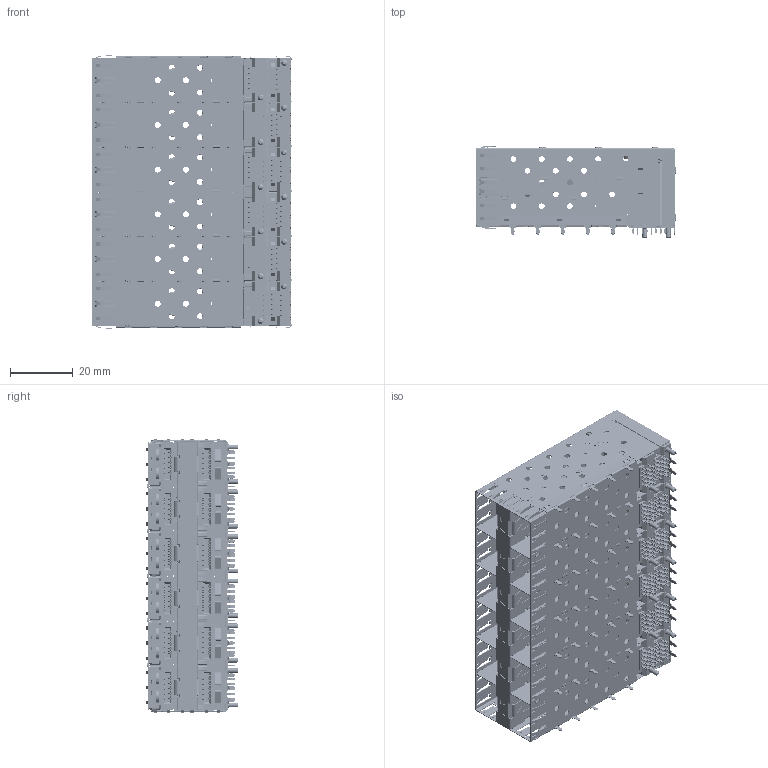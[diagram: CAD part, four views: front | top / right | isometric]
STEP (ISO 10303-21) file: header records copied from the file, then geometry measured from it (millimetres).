
FILE_DESCRIPTION (( 'STEP AP214' ), '1' );
FILE_NAME ('SAG0-0000210200-0000-X.STEP', '2021-06-15T06:30:03', ( '' ), ( '' ), 'SwSTEP 2.0', 'SolidWorks 2012', '' );
FILE_SCHEMA (( 'AUTOMOTIVE_DESIGN' ));
Length unit declared in the file: millimetre
Products named in the file (43): SSA0-M210_SSA0-M21001XX 客戶3D-Type B-XIN; SSA0-M210_SSA0-M21000XX 客戶3D-Type A-XIN; SSA0-M220-P_D TYPE; SBA0-S130_組裝; SSA0-C110_SSA0-C11000XX 客戶3D-Type A-GND; SSA0-M220-P; SSA0-C110_SSA0-C11003XX 客戶3D-Type D-XIN; SSA0-C110_SSA0-C11002XX 客戶3D-Type C-XIN; SSA0-M220_SSA0-M22001XX 客戶3D-Type B-GND; SSA0-M210-P_C TYPE; SSA0-M220_SSA0-M22000XX 客戶3D-Type A-GND; SBG0-S120_SFP; SAG0-0000210200-0000-X; SSA0-C110_SSA0-C11001XX 客戶3D-Type B-GND; SBD0-S140_w\UD Innerlightpipe-right ass''y; SSD0-P150; SSA0-M210-P; SBD0-S140_w\UD Innerlightpipe-stamp; SBG0-S110-1_2.25-Legs22-SFP hole+panel spring ass''y; SBD0-S130-1_pressfit 1.05-2.25-Legs5-ass''y; SSD0-P140_for 4Lightpipe-LED高度0.6 max(亮面+套筒); SBG0-M110-1_pressfit 1.05-2.25-legs5-UD Inner  lightpipe; SBD0-S140_w\UD Innerlightpipe-left ass''y; SSA0-P110; SSA0-M130 Conn+Lightpipe Ass''y-1_«È¤á3D DU Inner Lightpipe
Assembly tree (54 placements, depth 4):
  SAG0-0000210200-0000-X
    SBG0-S110-1_2.25-Legs22-SFP hole+panel spring ass''y
    SBG0-M110-1_pressfit 1.05-2.25-legs5-UD Inner  lightpipe
      SBD0-S130-1_pressfit 1.05-2.25-Legs5-ass''y  x5
      SBD0-S140_w\UD Innerlightpipe-left ass''y
      SBD0-S140_w\UD Innerlightpipe-stamp  x4
      SBD0-S140_w\UD Innerlightpipe-right ass''y
    SBG0-S120_SFP
    SSA0-M130 Conn+Lightpipe Ass''y-1_«È¤á3D DU Inner Lightpipe  x6
      SSA0-P110
      SBA0-S130_組裝
      SSA0-M220_SSA0-M22000XX 客戶3D-Type A-GND
        SSA0-M220-P
        SSA0-C110_SSA0-C11000XX 客戶3D-Type A-GND
      SSA0-M210_SSA0-M21001XX 客戶3D-Type B-XIN
        SSA0-M210-P
        SSA0-C110_SSA0-C11003XX 客戶3D-Type D-XIN
      SSA0-M210_SSA0-M21000XX 客戶3D-Type A-XIN
        SSA0-M210-P_C TYPE
        SSA0-C110_SSA0-C11002XX 客戶3D-Type C-XIN
      SSA0-M220_SSA0-M22001XX 客戶3D-Type B-GND
        SSA0-M220-P_D TYPE
        SSA0-C110_SSA0-C11001XX 客戶3D-Type B-GND
      SSA0-M210_SSA0-M21000XX 客戶3D-Type A-XIN
        SSA0-M210-P_C TYPE
        SSA0-C110_SSA0-C11002XX 客戶3D-Type C-XIN
      SSA0-M210_SSA0-M21001XX 客戶3D-Type B-XIN
        SSA0-M210-P
        SSA0-C110_SSA0-C11003XX 客戶3D-Type D-XIN
      SSA0-M220_SSA0-M22000XX 客戶3D-Type A-GND
        SSA0-M220-P
        SSA0-C110_SSA0-C11000XX 客戶3D-Type A-GND
      SSA0-M210_SSA0-M21001XX 客戶3D-Type B-XIN
        SSA0-M210-P
        SSA0-C110_SSA0-C11003XX 客戶3D-Type D-XIN
      SSA0-M210_SSA0-M21000XX 客戶3D-Type A-XIN
        SSA0-M210-P_C TYPE
        SSA0-C110_SSA0-C11002XX 客戶3D-Type C-XIN
      SSA0-M220_SSA0-M22001XX 客戶3D-Type B-GND
        SSA0-M220-P_D TYPE
        SSA0-C110_SSA0-C11001XX 客戶3D-Type B-GND
      SSD0-P140_for 4Lightpipe-LED高度0.6 max(亮面+套筒)
      SSD0-P150
Bounding box: 63.5 x 29.5 x 87.25 mm (x, y, z)
Volume: 30917.9 mm3; surface area: 126894.6 mm2
Topology: 757 solids, 757 shells, 47500 faces, 127518 edges, 81076 vertices
Faces by surface type: plane 32742, cylinder 13748, bspline 626, torus 216, cone 168
Entity records: 441634 total; most frequent: CARTESIAN_POINT 88084, ORIENTED_EDGE 73896, DIRECTION 73404, EDGE_CURVE 36948, VECTOR 25644, LINE 25644, AXIS2_PLACEMENT_3D 23880, VERTEX_POINT 23492
